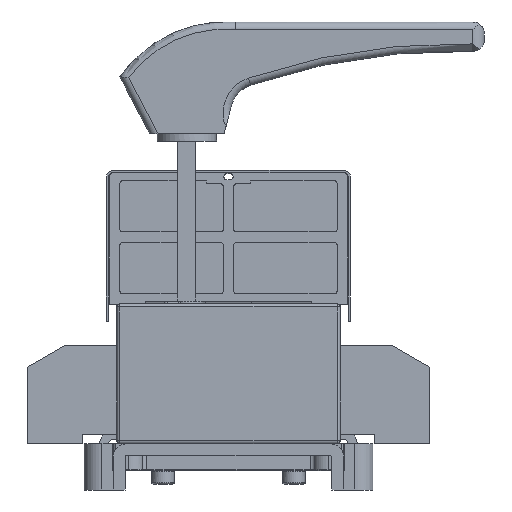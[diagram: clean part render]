
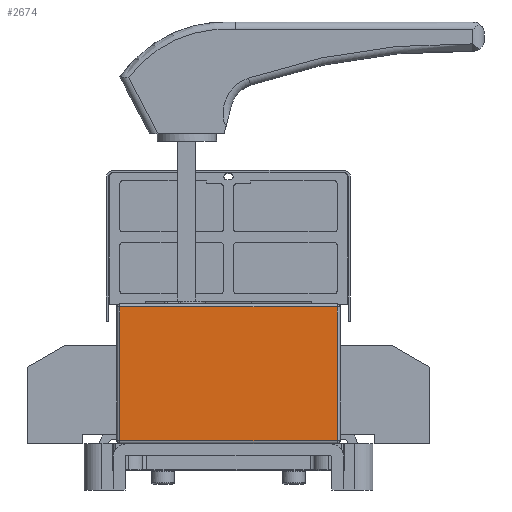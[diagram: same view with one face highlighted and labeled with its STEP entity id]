
A CAD part, left-side view. The second image highlights one B-rep face of the part: STEP entity #2674.
In plain terms, the highlighted planar face has unit normal (-1, 0, 0).
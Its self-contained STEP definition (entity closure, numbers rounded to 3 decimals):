
#1031=FACE_OUTER_BOUND('',#6108,.T.);
#2674=ADVANCED_FACE('',(#1031),#4475,.F.);
#4475=PLANE('',#34099);
#6108=EDGE_LOOP('',(#16071,#16072,#16073,#16074));
#8888=LINE('',#48504,#12280);
#8889=LINE('',#48507,#12281);
#8890=LINE('',#48509,#12282);
#8891=LINE('',#48511,#12283);
#12280=VECTOR('',#38246,1.);
#12281=VECTOR('',#38247,1.);
#12282=VECTOR('',#38248,1.);
#12283=VECTOR('',#38249,1.);
#16071=ORIENTED_EDGE('',*,*,#28686,.T.);
#16072=ORIENTED_EDGE('',*,*,#28687,.T.);
#16073=ORIENTED_EDGE('',*,*,#28688,.T.);
#16074=ORIENTED_EDGE('',*,*,#28689,.T.);
#25379=VERTEX_POINT('',#48505);
#25380=VERTEX_POINT('',#48506);
#25381=VERTEX_POINT('',#48508);
#25382=VERTEX_POINT('',#48510);
#28686=EDGE_CURVE('',#25379,#25380,#8888,.T.);
#28687=EDGE_CURVE('',#25380,#25381,#8889,.T.);
#28688=EDGE_CURVE('',#25381,#25382,#8890,.T.);
#28689=EDGE_CURVE('',#25382,#25379,#8891,.T.);
#34099=AXIS2_PLACEMENT_3D('',#48512,#38250,#38251);
#38246=DIRECTION('',(0.,0.,-1.));
#38247=DIRECTION('',(0.,-1.,0.));
#38248=DIRECTION('',(0.,0.,1.));
#38249=DIRECTION('',(0.,1.,0.));
#38250=DIRECTION('',(1.,0.,0.));
#38251=DIRECTION('',(0.,1.,0.));
#48504=CARTESIAN_POINT('',(-150.,73.,94.));
#48505=CARTESIAN_POINT('',(-150.,73.,92.));
#48506=CARTESIAN_POINT('',(-150.,73.,2.));
#48507=CARTESIAN_POINT('',(-150.,75.,2.));
#48508=CARTESIAN_POINT('',(-150.,-73.,2.));
#48509=CARTESIAN_POINT('',(-150.,-73.,94.));
#48510=CARTESIAN_POINT('',(-150.,-73.,92.));
#48511=CARTESIAN_POINT('',(-150.,73.,92.));
#48512=CARTESIAN_POINT('',(-150.,75.,94.));
